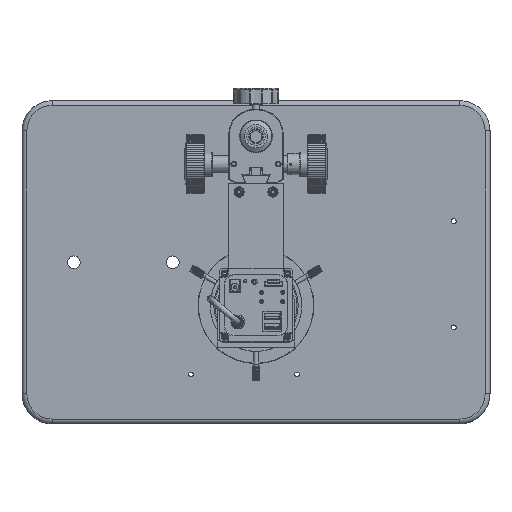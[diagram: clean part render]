
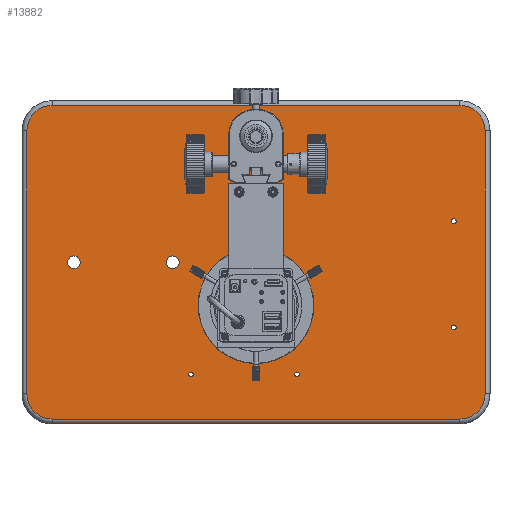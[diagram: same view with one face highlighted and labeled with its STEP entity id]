
A CAD part, top view. The second image highlights one B-rep face of the part: STEP entity #13882.
In plain terms, the highlighted planar face has unit normal (0, 0, 1).
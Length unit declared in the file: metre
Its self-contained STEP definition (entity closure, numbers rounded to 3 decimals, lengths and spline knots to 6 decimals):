
#13882=ADVANCED_FACE('0:35593',(#41090,#41091,#41092,#41093,#41094,#41095,#41096,#41097,#41098,#41099),#41100,.T.);
#14462=EDGE_CURVE('0:36880',#42015,#42015,#42016,.T.);
#14500=EDGE_CURVE('0:36904',#42063,#42070,#42073,.T.);
#14790=EDGE_CURVE('0:36910',#42499,#42496,#42500,.T.);
#14870=EDGE_CURVE('0:36922',#42602,#42608,#42611,.T.);
#14922=EDGE_CURVE('0:36871',#42683,#42683,#42684,.T.);
#14958=EDGE_CURVE('0:36874',#42734,#42734,#42735,.T.);
#14960=EDGE_CURVE('0:36877',#42737,#42737,#42738,.T.);
#14962=EDGE_CURVE('0:36883',#42740,#42740,#42741,.T.);
#14964=EDGE_CURVE('0:36886',#42743,#42743,#42744,.T.);
#14966=EDGE_CURVE('0:36895',#42746,#42746,#42747,.T.);
#14968=EDGE_CURVE('0:36901',#42749,#42749,#42750,.T.);
#14970=EDGE_CURVE('0:36892',#42752,#42752,#42753,.T.);
#14972=EDGE_CURVE('0:36907',#42070,#42499,#42755,.T.);
#14974=EDGE_CURVE('0:36913',#42496,#42757,#42758,.T.);
#14976=EDGE_CURVE('0:36916',#42757,#42760,#42761,.T.);
#14978=EDGE_CURVE('0:36919',#42760,#42602,#42763,.T.);
#14980=EDGE_CURVE('0:36925',#42608,#42063,#42765,.T.);
#41090=FACE_BOUND('',#78949,.T.);
#41091=FACE_BOUND('',#78950,.T.);
#41092=FACE_BOUND('',#78951,.T.);
#41093=FACE_BOUND('',#78952,.T.);
#41094=FACE_BOUND('',#78953,.T.);
#41095=FACE_BOUND('',#78954,.T.);
#41096=FACE_BOUND('',#78955,.T.);
#41097=FACE_BOUND('',#78956,.T.);
#41098=FACE_BOUND('',#78957,.T.);
#41099=FACE_OUTER_BOUND('',#78958,.T.);
#41100=PLANE('',#78959);
#42015=VERTEX_POINT('',#80088);
#42016=CIRCLE('',#80089,0.002);
#42063=VERTEX_POINT('',#80156);
#42070=VERTEX_POINT('',#80166);
#42073=LINE('',#80170,#80171);
#42496=VERTEX_POINT('',#80826);
#42499=VERTEX_POINT('',#80830);
#42500=LINE('',#80831,#80832);
#42602=VERTEX_POINT('',#80997);
#42608=VERTEX_POINT('',#81006);
#42611=LINE('',#81010,#81011);
#42683=VERTEX_POINT('',#81125);
#42684=CIRCLE('',#81126,0.002);
#42734=VERTEX_POINT('',#81206);
#42735=CIRCLE('',#81207,0.002);
#42737=VERTEX_POINT('',#81210);
#42738=CIRCLE('',#81211,0.002);
#42740=VERTEX_POINT('',#81214);
#42741=CIRCLE('',#81215,0.002);
#42743=VERTEX_POINT('',#81218);
#42744=CIRCLE('',#81219,0.002);
#42746=VERTEX_POINT('',#81222);
#42747=CIRCLE('',#81223,0.00525);
#42749=VERTEX_POINT('',#81226);
#42750=CIRCLE('',#81227,0.00525);
#42752=VERTEX_POINT('',#81230);
#42753=CIRCLE('',#81231,0.00525);
#42755=CIRCLE('',#81234,0.021);
#42757=VERTEX_POINT('',#81237);
#42758=CIRCLE('',#81238,0.021);
#42760=VERTEX_POINT('',#81241);
#42761=LINE('',#81242,#81243);
#42763=CIRCLE('',#81246,0.021);
#42765=CIRCLE('',#81249,0.021);
#78949=EDGE_LOOP('',(#199348));
#78950=EDGE_LOOP('',(#199349));
#78951=EDGE_LOOP('',(#199350));
#78952=EDGE_LOOP('',(#199351));
#78953=EDGE_LOOP('',(#199352));
#78954=EDGE_LOOP('',(#199353));
#78955=EDGE_LOOP('',(#199354));
#78956=EDGE_LOOP('',(#199355));
#78957=EDGE_LOOP('',(#199356));
#78958=EDGE_LOOP('',(#199357,#199358,#199359,#199360,#199361,#199362,#199363,#199364));
#78959=AXIS2_PLACEMENT_3D('',#199365,#199366,#199367);
#80088=CARTESIAN_POINT('',(0.036,-0.093,0.026));
#80089=AXIS2_PLACEMENT_3D('',#201407,#201408,#201409);
#80156=CARTESIAN_POINT('',(-0.19,0.109,0.026));
#80166=CARTESIAN_POINT('',(-0.19,-0.109,0.026));
#80170=CARTESIAN_POINT('',(-0.19,0.0,0.026));
#80171=VECTOR('',#201454,1.0);
#80826=CARTESIAN_POINT('',(0.169,-0.13,0.026));
#80830=CARTESIAN_POINT('',(-0.169,-0.13,0.026));
#80831=CARTESIAN_POINT('',(0.0,-0.13,0.026));
#80832=VECTOR('',#201711,1.0);
#80997=CARTESIAN_POINT('',(0.169,0.13,0.026));
#81006=CARTESIAN_POINT('',(-0.169,0.13,0.026));
#81010=CARTESIAN_POINT('',(0.0,0.13,0.026));
#81011=VECTOR('',#201775,1.0);
#81125=CARTESIAN_POINT('',(0.166,-0.054,0.026));
#81126=AXIS2_PLACEMENT_3D('',#201819,#201820,#201821);
#81206=CARTESIAN_POINT('',(0.166,0.034,0.026));
#81207=AXIS2_PLACEMENT_3D('',#201849,#201850,#201851);
#81210=CARTESIAN_POINT('',(0.024,-0.01,0.026));
#81211=AXIS2_PLACEMENT_3D('',#201852,#201853,#201854);
#81214=CARTESIAN_POINT('',(-0.052,-0.093,0.026));
#81215=AXIS2_PLACEMENT_3D('',#201855,#201856,#201857);
#81218=CARTESIAN_POINT('',(-0.008,0.049,0.026));
#81219=AXIS2_PLACEMENT_3D('',#201858,#201859,#201860);
#81222=CARTESIAN_POINT('',(-0.06375,0.,0.026));
#81223=AXIS2_PLACEMENT_3D('',#201861,#201862,#201863);
#81226=CARTESIAN_POINT('',(-0.14575,0.,0.026));
#81227=AXIS2_PLACEMENT_3D('',#201864,#201865,#201866);
#81230=CARTESIAN_POINT('',(0.00525,0.104,0.026));
#81231=AXIS2_PLACEMENT_3D('',#201867,#201868,#201869);
#81234=AXIS2_PLACEMENT_3D('',#201870,#201871,#201872);
#81237=CARTESIAN_POINT('',(0.19,-0.109,0.026));
#81238=AXIS2_PLACEMENT_3D('',#201873,#201874,#201875);
#81241=CARTESIAN_POINT('',(0.19,0.109,0.026));
#81242=CARTESIAN_POINT('',(0.19,0.0,0.026));
#81243=VECTOR('',#201876,1.0);
#81246=AXIS2_PLACEMENT_3D('',#201877,#201878,#201879);
#81249=AXIS2_PLACEMENT_3D('',#201880,#201881,#201882);
#199348=ORIENTED_EDGE('',*,*,#14922,.F.);
#199349=ORIENTED_EDGE('',*,*,#14958,.F.);
#199350=ORIENTED_EDGE('',*,*,#14960,.F.);
#199351=ORIENTED_EDGE('',*,*,#14462,.F.);
#199352=ORIENTED_EDGE('',*,*,#14962,.F.);
#199353=ORIENTED_EDGE('',*,*,#14964,.F.);
#199354=ORIENTED_EDGE('',*,*,#14966,.F.);
#199355=ORIENTED_EDGE('',*,*,#14968,.F.);
#199356=ORIENTED_EDGE('',*,*,#14970,.F.);
#199357=ORIENTED_EDGE('',*,*,#14500,.T.);
#199358=ORIENTED_EDGE('',*,*,#14972,.T.);
#199359=ORIENTED_EDGE('',*,*,#14790,.T.);
#199360=ORIENTED_EDGE('',*,*,#14974,.T.);
#199361=ORIENTED_EDGE('',*,*,#14976,.T.);
#199362=ORIENTED_EDGE('',*,*,#14978,.T.);
#199363=ORIENTED_EDGE('',*,*,#14870,.T.);
#199364=ORIENTED_EDGE('',*,*,#14980,.T.);
#199365=CARTESIAN_POINT('',(0.0,0.0,0.026));
#199366=DIRECTION('',(0.0,0.0,1.0));
#199367=DIRECTION('',(1.0,0.0,0.0));
#201407=CARTESIAN_POINT('',(0.034,-0.093,0.026));
#201408=DIRECTION('',(0.0,0.0,1.0));
#201409=DIRECTION('',(1.0,0.0,0.0));
#201454=DIRECTION('',(0.0,-1.0,0.0));
#201711=DIRECTION('',(1.0,0.0,-0.0));
#201775=DIRECTION('',(-1.0,0.0,0.0));
#201819=CARTESIAN_POINT('',(0.164,-0.054,0.026));
#201820=DIRECTION('',(0.0,0.0,1.0));
#201821=DIRECTION('',(1.0,0.0,0.0));
#201849=CARTESIAN_POINT('',(0.164,0.034,0.026));
#201850=DIRECTION('',(0.0,0.0,1.0));
#201851=DIRECTION('',(1.0,0.0,0.0));
#201852=CARTESIAN_POINT('',(0.022,-0.01,0.026));
#201853=DIRECTION('',(0.0,0.0,1.0));
#201854=DIRECTION('',(1.0,0.0,0.0));
#201855=CARTESIAN_POINT('',(-0.054,-0.093,0.026));
#201856=DIRECTION('',(0.0,0.0,1.0));
#201857=DIRECTION('',(1.0,0.0,0.0));
#201858=CARTESIAN_POINT('',(-0.01,0.049,0.026));
#201859=DIRECTION('',(0.0,0.0,1.0));
#201860=DIRECTION('',(1.0,0.0,0.0));
#201861=CARTESIAN_POINT('',(-0.069,0.,0.026));
#201862=DIRECTION('',(0.0,0.0,1.0));
#201863=DIRECTION('',(1.0,0.0,0.0));
#201864=CARTESIAN_POINT('',(-0.151,0.,0.026));
#201865=DIRECTION('',(0.0,0.0,1.0));
#201866=DIRECTION('',(1.0,0.0,0.0));
#201867=CARTESIAN_POINT('',(0.0,0.104,0.026));
#201868=DIRECTION('',(0.0,0.0,1.0));
#201869=DIRECTION('',(1.0,0.0,0.0));
#201870=CARTESIAN_POINT('',(-0.169,-0.109,0.026));
#201871=DIRECTION('',(0.0,0.0,1.0));
#201872=DIRECTION('',(1.0,0.0,-0.0));
#201873=CARTESIAN_POINT('',(0.169,-0.109,0.026));
#201874=DIRECTION('',(0.0,0.0,1.0));
#201875=DIRECTION('',(1.0,0.0,-0.0));
#201876=DIRECTION('',(0.0,1.0,0.0));
#201877=CARTESIAN_POINT('',(0.169,0.109,0.026));
#201878=DIRECTION('',(0.0,0.0,1.0));
#201879=DIRECTION('',(1.0,0.0,-0.0));
#201880=CARTESIAN_POINT('',(-0.169,0.109,0.026));
#201881=DIRECTION('',(0.0,0.0,1.0));
#201882=DIRECTION('',(1.0,0.0,-0.0));
